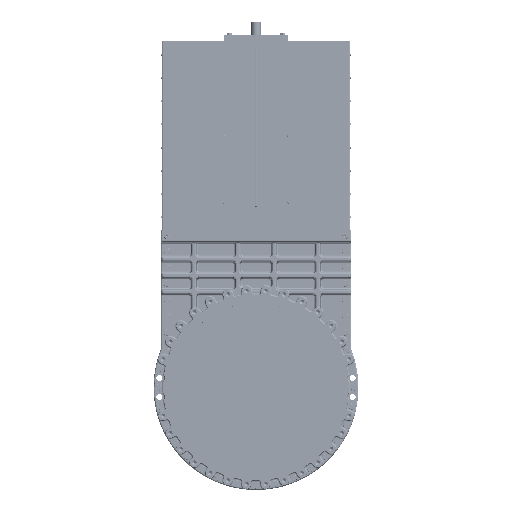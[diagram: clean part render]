
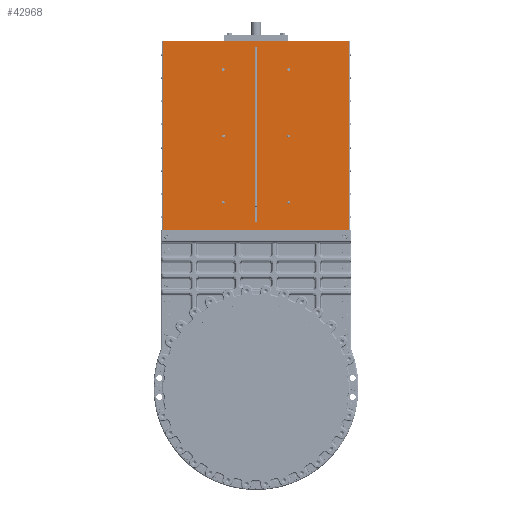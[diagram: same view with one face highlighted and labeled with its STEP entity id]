
A CAD part, top view. The second image highlights one B-rep face of the part: STEP entity #42968.
In plain terms, the highlighted planar face has unit normal (0, 0, 1).
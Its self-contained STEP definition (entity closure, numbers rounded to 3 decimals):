
#31816=LINE('',#179441,#35558);
#31824=LINE('',#179465,#35566);
#31832=LINE('',#179487,#35574);
#31833=LINE('',#179501,#35575);
#31834=LINE('',#179505,#35576);
#31835=LINE('',#179509,#35577);
#35558=VECTOR('',#132288,1.);
#35566=VECTOR('',#132312,1.);
#35574=VECTOR('',#132336,1.);
#35575=VECTOR('',#132351,1.);
#35576=VECTOR('',#132354,1.);
#35577=VECTOR('',#132357,1.);
#38022=PLANE('',#110760);
#42968=ADVANCED_FACE('',(#48967,#48968,#48969,#48970,#48971,#48972,#48973,
#48974),#38022,.F.);
#48967=FACE_BOUND('',#56033,.T.);
#48968=FACE_BOUND('',#56034,.T.);
#48969=FACE_BOUND('',#56035,.T.);
#48970=FACE_BOUND('',#56036,.T.);
#48971=FACE_BOUND('',#56037,.T.);
#48972=FACE_BOUND('',#56038,.T.);
#48973=FACE_BOUND('',#56039,.T.);
#48974=FACE_BOUND('',#56040,.T.);
#56033=EDGE_LOOP('',(#75594));
#56034=EDGE_LOOP('',(#75595));
#56035=EDGE_LOOP('',(#75596));
#56036=EDGE_LOOP('',(#75597));
#56037=EDGE_LOOP('',(#75598));
#56038=EDGE_LOOP('',(#75599));
#56039=EDGE_LOOP('',(#75600,#75601,#75602,#75603));
#56040=EDGE_LOOP('',(#75604,#75605,#75606,#75607));
#75594=ORIENTED_EDGE('',*,*,#95824,.F.);
#75595=ORIENTED_EDGE('',*,*,#95825,.F.);
#75596=ORIENTED_EDGE('',*,*,#95826,.F.);
#75597=ORIENTED_EDGE('',*,*,#95827,.T.);
#75598=ORIENTED_EDGE('',*,*,#95828,.T.);
#75599=ORIENTED_EDGE('',*,*,#95829,.T.);
#75600=ORIENTED_EDGE('',*,*,#95823,.T.);
#75601=ORIENTED_EDGE('',*,*,#95811,.T.);
#75602=ORIENTED_EDGE('',*,*,#95830,.F.);
#75603=ORIENTED_EDGE('',*,*,#95799,.F.);
#75604=ORIENTED_EDGE('',*,*,#95831,.T.);
#75605=ORIENTED_EDGE('',*,*,#95832,.T.);
#75606=ORIENTED_EDGE('',*,*,#95833,.T.);
#75607=ORIENTED_EDGE('',*,*,#95834,.T.);
#85501=VERTEX_POINT('',#179440);
#85502=VERTEX_POINT('',#179442);
#85509=VERTEX_POINT('',#179462);
#85510=VERTEX_POINT('',#179466);
#85516=VERTEX_POINT('',#179490);
#85517=VERTEX_POINT('',#179492);
#85518=VERTEX_POINT('',#179494);
#85519=VERTEX_POINT('',#179496);
#85520=VERTEX_POINT('',#179498);
#85521=VERTEX_POINT('',#179500);
#85522=VERTEX_POINT('',#179503);
#85523=VERTEX_POINT('',#179504);
#85524=VERTEX_POINT('',#179506);
#85525=VERTEX_POINT('',#179508);
#95799=EDGE_CURVE('',#85501,#85502,#31816,.T.);
#95811=EDGE_CURVE('',#85510,#85509,#31824,.T.);
#95823=EDGE_CURVE('',#85501,#85510,#31832,.T.);
#95824=EDGE_CURVE('',#85516,#85516,#101678,.T.);
#95825=EDGE_CURVE('',#85517,#85517,#101679,.T.);
#95826=EDGE_CURVE('',#85518,#85518,#101680,.T.);
#95827=EDGE_CURVE('',#85519,#85519,#101681,.T.);
#95828=EDGE_CURVE('',#85520,#85520,#101682,.T.);
#95829=EDGE_CURVE('',#85521,#85521,#101683,.T.);
#95830=EDGE_CURVE('',#85502,#85509,#31833,.T.);
#95831=EDGE_CURVE('',#85522,#85523,#101684,.T.);
#95832=EDGE_CURVE('',#85523,#85524,#31834,.T.);
#95833=EDGE_CURVE('',#85524,#85525,#101685,.T.);
#95834=EDGE_CURVE('',#85525,#85522,#31835,.T.);
#101678=CIRCLE('',#110752,10.);
#101679=CIRCLE('',#110753,10.);
#101680=CIRCLE('',#110754,10.);
#101681=CIRCLE('',#110755,10.);
#101682=CIRCLE('',#110756,10.);
#101683=CIRCLE('',#110757,10.);
#101684=CIRCLE('',#110758,5.);
#101685=CIRCLE('',#110759,5.);
#110752=AXIS2_PLACEMENT_3D('',#179489,#132339,#132340);
#110753=AXIS2_PLACEMENT_3D('',#179491,#132341,#132342);
#110754=AXIS2_PLACEMENT_3D('',#179493,#132343,#132344);
#110755=AXIS2_PLACEMENT_3D('',#179495,#132345,#132346);
#110756=AXIS2_PLACEMENT_3D('',#179497,#132347,#132348);
#110757=AXIS2_PLACEMENT_3D('',#179499,#132349,#132350);
#110758=AXIS2_PLACEMENT_3D('',#179502,#132352,#132353);
#110759=AXIS2_PLACEMENT_3D('',#179507,#132355,#132356);
#110760=AXIS2_PLACEMENT_3D('',#179510,#132358,#132359);
#132288=DIRECTION('',(-1.,0.,0.));
#132312=DIRECTION('',(-1.,0.,0.));
#132336=DIRECTION('',(0.,1.,0.));
#132339=DIRECTION('',(0.,0.,1.));
#132340=DIRECTION('',(-1.,0.,0.));
#132341=DIRECTION('',(0.,0.,1.));
#132342=DIRECTION('',(-1.,0.,0.));
#132343=DIRECTION('',(0.,0.,1.));
#132344=DIRECTION('',(-1.,0.,0.));
#132345=DIRECTION('',(0.,0.,-1.));
#132346=DIRECTION('',(0.,1.,0.));
#132347=DIRECTION('',(0.,0.,-1.));
#132348=DIRECTION('',(0.,1.,0.));
#132349=DIRECTION('',(0.,0.,-1.));
#132350=DIRECTION('',(0.,1.,0.));
#132351=DIRECTION('',(0.,1.,0.));
#132352=DIRECTION('',(0.,0.,-1.));
#132353=DIRECTION('',(-1.,0.,0.));
#132354=DIRECTION('',(0.,-1.,0.));
#132355=DIRECTION('',(0.,0.,-1.));
#132356=DIRECTION('',(1.,0.,0.));
#132357=DIRECTION('',(0.,1.,0.));
#132358=DIRECTION('',(0.,0.,-1.));
#132359=DIRECTION('',(1.,0.,0.));
#179440=CARTESIAN_POINT('',(660.,1115.1,137.5));
#179441=CARTESIAN_POINT('',(660.,1115.1,137.5));
#179442=CARTESIAN_POINT('',(-660.,1115.1,137.5));
#179462=CARTESIAN_POINT('',(-660.,2457.,137.5));
#179465=CARTESIAN_POINT('',(660.,2457.,137.5));
#179466=CARTESIAN_POINT('',(660.,2457.,137.5));
#179487=CARTESIAN_POINT('',(660.,1115.,137.5));
#179489=CARTESIAN_POINT('',(232.,1315.,137.5));
#179490=CARTESIAN_POINT('',(222.,1315.,137.5));
#179491=CARTESIAN_POINT('',(232.,2257.,137.5));
#179492=CARTESIAN_POINT('',(222.,2257.,137.5));
#179493=CARTESIAN_POINT('',(232.,1786.,137.5));
#179494=CARTESIAN_POINT('',(222.,1786.,137.5));
#179495=CARTESIAN_POINT('',(-232.,1315.,137.5));
#179496=CARTESIAN_POINT('',(-232.,1325.,137.5));
#179497=CARTESIAN_POINT('',(-232.,2257.,137.5));
#179498=CARTESIAN_POINT('',(-232.,2267.,137.5));
#179499=CARTESIAN_POINT('',(-232.,1786.,137.5));
#179500=CARTESIAN_POINT('',(-232.,1796.,137.5));
#179501=CARTESIAN_POINT('',(-660.,1115.,137.5));
#179502=CARTESIAN_POINT('',(0.,2412.,137.5));
#179503=CARTESIAN_POINT('',(-5.,2412.,137.5));
#179504=CARTESIAN_POINT('',(5.,2412.,137.5));
#179505=CARTESIAN_POINT('',(5.,2412.,137.5));
#179506=CARTESIAN_POINT('',(5.,1180.,137.5));
#179507=CARTESIAN_POINT('',(0.,1180.,137.5));
#179508=CARTESIAN_POINT('',(-5.,1180.,137.5));
#179509=CARTESIAN_POINT('',(-5.,1180.,137.5));
#179510=CARTESIAN_POINT('',(660.,1115.,137.5));
